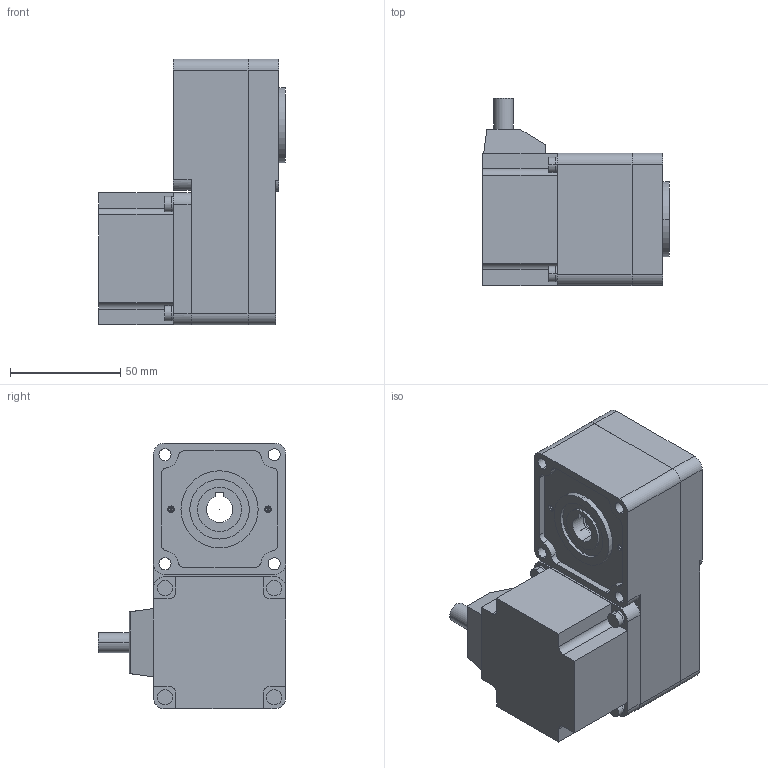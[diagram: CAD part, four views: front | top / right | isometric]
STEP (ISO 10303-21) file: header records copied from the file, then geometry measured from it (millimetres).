
FILE_DESCRIPTION(('starvars output'),'2;1');
FILE_NAME('BLH230KC-20FR.stp','15:07:19 2015/05/11',( 'Thomas Industrial Network Germany GmbH'),( 'Thomas Industrial Network Germany GmbH'),'unknown preprocess','ACIS' ,'unknown authorization');
FILE_SCHEMA(('AUTOMOTIVE_DESIGN_CC2 {UNKNOWN IMPLEMENTATION LEVEL}'));
Length unit declared in the file: millimetre
Products named in the file (1): PRODUCT_ID_397
Bounding box: 84.8 x 85 x 120.5 mm (x, y, z)
Volume: 439545.2 mm3; surface area: 50441 mm2
Topology: 3 solids, 3 shells, 223 faces, 560 edges, 362 vertices
Faces by surface type: cylinder 115, plane 92, cone 16
Entity records: 7865 total; most frequent: ORIENTED_EDGE 1104, CARTESIAN_POINT 995, DIRECTION 972, EDGE_CURVE 552, VERTEX_POINT 362, AXIS2_PLACEMENT_3D 339, VECTOR 294, LINE 294
